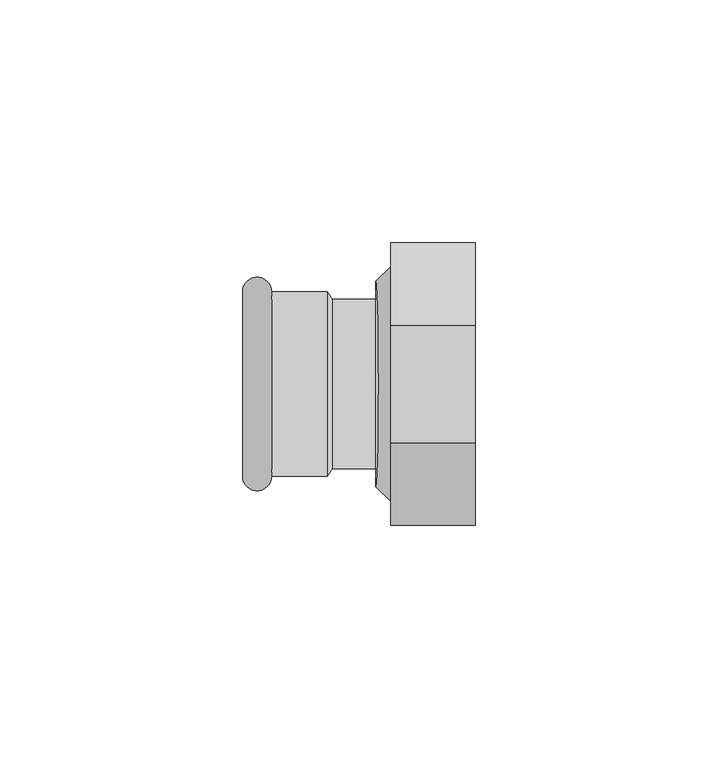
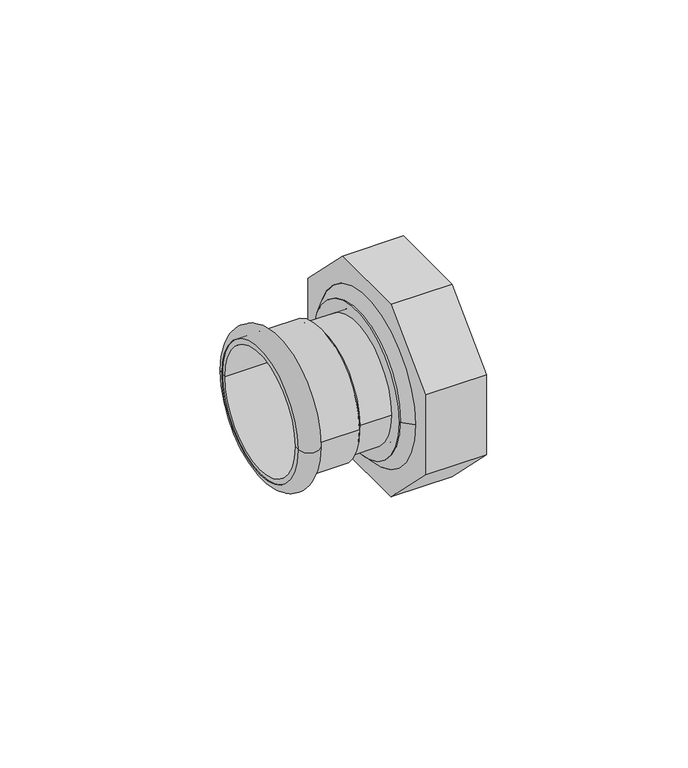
"""IFC4 building model written with IfcOpenShell, lengths in millimetres: pipe fitting geometry."""

import ifcopenshell
import ifcopenshell.guid

model = None  # the IFC model being written
_history = None  # IfcOwnerHistory: only IFC2X3 demands one
_inside = {}  # id of a spatial element -> (the spatial element, [elements in it])
_under = {}  # id of a project, library or spatial element -> (it, [spatial elements below it])
_declared = {}  # id of a project -> (the project, [libraries it declares])
_typed = {}  # id of a type object -> (the type object, [elements of that type])
_made_of = {}  # id of a material, layer set ... -> (it, [elements and type objects made of it])


def new_model(schema):
    """Start an empty IFC model of exactly this schema.

    Asked for "IFC4X3", IfcOpenShell would pick the latest addendum, in which some entities
    have other attributes; the version numbers below select the first issue.
    IFC2X3 requires an IfcOwnerHistory on every rooted entity: one is made here for all.
    """
    global model, _history
    if schema == "IFC4X3":
        model = ifcopenshell.file(schema_version=(4, 3, 0, 0))
    else:
        model = ifcopenshell.file(schema=schema)
    _inside.clear()
    _under.clear()
    _declared.clear()
    _typed.clear()
    _made_of.clear()
    _history = None
    if model.schema == "IFC2X3":
        org = make("IfcOrganization", Name="unknown")
        user = make(
            "IfcPersonAndOrganization",
            ThePerson=make("IfcPerson", FamilyName="unknown"),
            TheOrganization=org,
        )
        app = make(
            "IfcApplication",
            ApplicationDeveloper=org,
            Version="unknown",
            ApplicationFullName="unknown",
            ApplicationIdentifier="unknown",
        )
        _history = make(
            "IfcOwnerHistory",
            OwningUser=user,
            OwningApplication=app,
            ChangeAction="ADDED",
            CreationDate=0,
        )
    return model


def make(cls, **values):
    """One entity of the class cls with the attributes given. An attribute that is None is left unset."""
    return model.create_entity(
        cls, **{name: value for name, value in values.items() if value is not None}
    )


def rooted(cls, **values):
    """An entity with a GlobalId (a new one), such as an element, a storey or a relation."""
    return make(cls, GlobalId=ifcopenshell.guid.new(), OwnerHistory=_history, **values)


def si_unit(unit_type, name, prefix=None):
    """IfcSIUnit, for example si_unit("LENGTHUNIT", "METRE", prefix="MILLI")."""
    return make("IfcSIUnit", UnitType=unit_type, Prefix=prefix, Name=name)


def assignment(units):
    """IfcUnitAssignment: the units of a project."""
    return None if units is None else make("IfcUnitAssignment", Units=units)


def point(xyz):
    """IfcCartesianPoint."""
    return None if xyz is None else make("IfcCartesianPoint", Coordinates=xyz)


def direction(xyz):
    """IfcDirection."""
    return None if xyz is None else make("IfcDirection", DirectionRatios=xyz)


def frame(location, z_axis=None, x_axis=None):
    """IfcAxis2Placement3D, a coordinate frame: its origin and axes. An axis left out is left unset."""
    return make(
        "IfcAxis2Placement3D",
        Location=point(location),
        Axis=direction(z_axis),
        RefDirection=direction(x_axis),
    )


def frame_2d(location, x_axis=None):
    """IfcAxis2Placement2D, a coordinate frame in the plane: its origin and x axis."""
    return make(
        "IfcAxis2Placement2D", Location=point(location), RefDirection=direction(x_axis)
    )


def origin():
    """The frame at (0, 0, 0) with its axes left unset."""
    return frame((0.0, 0.0, 0.0))


def origin_2d():
    """The frame at (0, 0) in the plane with its x axis left unset."""
    return frame_2d((0.0, 0.0))


def place(relative_to, where):
    """IfcLocalPlacement: puts the frame where relative to a parent placement (None: the world)."""
    return make(
        "IfcLocalPlacement", PlacementRelTo=relative_to, RelativePlacement=where
    )


def context(
    kind, dimensions, precision=None, world=None, true_north=None, identifier=None
):
    """IfcGeometricRepresentationContext, for example the 3D "Model" context."""
    return make(
        "IfcGeometricRepresentationContext",
        ContextIdentifier=identifier,
        ContextType=kind,
        CoordinateSpaceDimension=dimensions,
        Precision=precision,
        WorldCoordinateSystem=world,
        TrueNorth=true_north,
    )


def project(units=None, contexts=None):
    """IfcProject with its units and contexts."""
    return rooted(
        "IfcProject",
        Name="project",
        RepresentationContexts=contexts,
        UnitsInContext=assignment(units),
    )


def spatial(cls, under=None, at=None, **own):
    """A site, building, storey or space (cls), placed at a placement, below another one or the project."""
    s = rooted(cls, ObjectPlacement=at, **own)
    if under is not None:
        _under.setdefault(under.id(), (under, []))[1].append(s)
    return s


def polyline(points):
    """IfcPolyline through the points."""
    return make("IfcPolyline", Points=[point(p) for p in points])


def circle_curve(where, radius):
    """IfcCircle in the frame where."""
    return make("IfcCircle", Position=where, Radius=radius)


def ellipse_curve(where, semi_axis1, semi_axis2):
    """IfcEllipse in the frame where."""
    return make(
        "IfcEllipse", Position=where, SemiAxis1=semi_axis1, SemiAxis2=semi_axis2
    )


def trimmed(basis, trim1, trim2, sense, master):
    """IfcTrimmedCurve: the piece of a basis curve between two trims."""
    return make(
        "IfcTrimmedCurve",
        BasisCurve=basis,
        Trim1=trim1,
        Trim2=trim2,
        SenseAgreement=sense,
        MasterRepresentation=master,
    )


def segment(curve, same_sense, transition):
    """IfcCompositeCurveSegment."""
    return make(
        "IfcCompositeCurveSegment",
        Transition=transition,
        SameSense=same_sense,
        ParentCurve=curve,
    )


def composite_curve(segments, self_intersect=None):
    """IfcCompositeCurve: segments joined end to end."""
    return make("IfcCompositeCurve", Segments=segments, SelfIntersect=self_intersect)


def outline(outer, holes=None, kind="AREA"):
    """IfcArbitraryClosedProfileDef: a profile drawn as a closed curve; with holes, ...WithVoids."""
    if holes is None:
        return make("IfcArbitraryClosedProfileDef", ProfileType=kind, OuterCurve=outer)
    return make(
        "IfcArbitraryProfileDefWithVoids",
        ProfileType=kind,
        OuterCurve=outer,
        InnerCurves=holes,
    )


def extrude(swept, where, along, depth):
    """IfcExtrudedAreaSolid: the profile swept, set in the frame where, extruded along a direction by depth."""
    return make(
        "IfcExtrudedAreaSolid",
        SweptArea=swept,
        Position=where,
        ExtrudedDirection=direction(along),
        Depth=depth,
    )


def shape(context_of_items, identifier, shape_type, items):
    """IfcShapeRepresentation: the items that make up one representation, for example the "Body"."""
    return make(
        "IfcShapeRepresentation",
        ContextOfItems=context_of_items,
        RepresentationIdentifier=identifier,
        RepresentationType=shape_type,
        Items=items,
    )


def source(mapping_origin, context_of_items, identifier, shape_type, items):
    """IfcRepresentationMap: a shape defined once, which mapped items show again and again."""
    return make(
        "IfcRepresentationMap",
        MappingOrigin=mapping_origin,
        MappedRepresentation=shape(context_of_items, identifier, shape_type, items),
    )


def transform(
    local_origin,
    x_axis=None,
    y_axis=None,
    z_axis=None,
    scale=None,
    scale2=None,
    scale3=None,
    uniform=True,
):
    """IfcCartesianTransformationOperator3D, or its non-uniform kind. x_axis, y_axis, z_axis: its Axis1, 2, 3."""
    if uniform:
        return make(
            "IfcCartesianTransformationOperator3D",
            Axis1=direction(x_axis),
            Axis2=direction(y_axis),
            LocalOrigin=point(local_origin),
            Scale=scale,
            Axis3=direction(z_axis),
        )
    return make(
        "IfcCartesianTransformationOperator3DnonUniform",
        Axis1=direction(x_axis),
        Axis2=direction(y_axis),
        LocalOrigin=point(local_origin),
        Scale=scale,
        Axis3=direction(z_axis),
        Scale2=scale2,
        Scale3=scale3,
    )


def mapped(mapping_source, mapping_target):
    """IfcMappedItem: shows the shape of a source again, moved by a transform."""
    return make(
        "IfcMappedItem", MappingSource=mapping_source, MappingTarget=mapping_target
    )


def made_of(thing, what):
    """Note that an element or type object is made of a material, layer set ...; save() writes the relation."""
    if what is not None:
        _made_of.setdefault(what.id(), (what, []))[1].append(thing)
    return thing


def element(
    cls,
    number,
    at=None,
    inside=None,
    cuts=None,
    type_object=None,
    material=None,
    context=None,
    identifier="Body",
    shape_type=None,
    held_by="IfcProductDefinitionShape",
    body=None,
    shapes=None,
    **own,
):
    """One element of the class cls, such as IfcWall. Its Tag is "e" and its number.

    at: its placement. inside: the storey or other place that contains it. cuts: it is an
    opening in that element (IfcRelVoidsElement). A single representation is given by context,
    identifier, shape_type and body (its items); several are given by shapes. held_by: the class
    of the entity that holds the representations. save() writes the other relations.
    """
    e = rooted(cls, Tag="e%d" % number, ObjectPlacement=at, **own)
    if body is not None:
        shapes = [shape(context, identifier, shape_type, body)]
    if shapes is not None:
        e.Representation = make(held_by, Representations=shapes)
    if inside is not None:
        _inside.setdefault(inside.id(), (inside, []))[1].append(e)
    if cuts is not None:
        rooted(
            "IfcRelVoidsElement", RelatingBuildingElement=cuts, RelatedOpeningElement=e
        )
    if type_object is not None:
        _typed.setdefault(type_object.id(), (type_object, []))[1].append(e)
    return made_of(e, material)


def aggregate(whole, parts):
    """IfcRelAggregates: a whole, such as a stair, and the parts it consists of."""
    return rooted("IfcRelAggregates", RelatingObject=whole, RelatedObjects=parts)


def save(model, path):
    """Write the relations noted so far, then the file.

    IfcRelAggregates (storeys below a building ...), IfcRelContainedInSpatialStructure (elements
    in a storey), IfcRelDefinesByType, IfcRelAssociatesMaterial and IfcRelDeclares: one each for
    every whole, place, type object, material and project.
    """
    for whole, parts in _under.values():
        aggregate(whole, parts)
    for where, things in _inside.values():
        rooted(
            "IfcRelContainedInSpatialStructure",
            RelatedElements=things,
            RelatingStructure=where,
        )
    for kind, things in _typed.values():
        rooted("IfcRelDefinesByType", RelatedObjects=things, RelatingType=kind)
    for what, things in _made_of.values():
        rooted("IfcRelAssociatesMaterial", RelatedObjects=things, RelatingMaterial=what)
    for by, libraries in _declared.values():
        rooted("IfcRelDeclares", RelatingContext=by, RelatedDefinitions=libraries)
    model.write(path)


def plane_surface(at):
    """IfcPlane: the flat surface through the origin of the frame at, square to its z axis."""
    return make("IfcPlane", Position=at)


def cylinder_surface(at, radius):
    """IfcCylindricalSurface: all points at the distance radius from the z axis of the frame at."""
    return make("IfcCylindricalSurface", Position=at, Radius=radius)


def revolved_surface(curve, axis_point, axis_direction):
    """IfcSurfaceOfRevolution: the curve turned about the line through axis_point along axis_direction."""
    return make(
        "IfcSurfaceOfRevolution",
        SweptCurve=make("IfcArbitraryOpenProfileDef", ProfileType="CURVE", Curve=curve),
        AxisPosition=make("IfcAxis1Placement", Location=point(axis_point), Axis=direction(axis_direction)),
    )


def advanced_brep(points, edges, surfaces, faces):
    """IfcAdvancedBrep: a solid bounded by faces that lie on surfaces and meet in shared edges.

    An edge is (start, end): straight between two places in points (the first is 0);
    or (start, end, curve); or (start, end, curve, False) where it runs against its curve.
    A face is (place in surfaces, loops), or (place, loops, False) where it looks against
    its surface's normal. A loop lists edges by number (the first is 1), with a minus sign
    where the edge is run from its end to its start. The first loop is the outer one.
    """
    corners = [point(p) for p in points]
    vertices = [make("IfcVertexPoint", VertexGeometry=c) for c in corners]
    made = []
    for start, end, *more in edges:
        made.append(
            make(
                "IfcEdgeCurve",
                EdgeStart=vertices[start],
                EdgeEnd=vertices[end],
                EdgeGeometry=more[0] if more else make("IfcPolyline", Points=[corners[start], corners[end]]),
                SameSense=more[1] if len(more) > 1 else True,
            )
        )
    hull = []
    for where, loops, *sense in faces:
        bounds = []
        for j, loop in enumerate(loops):
            ring = [make("IfcOrientedEdge", EdgeElement=made[abs(k) - 1], Orientation=k > 0) for k in loop]
            bounds.append(
                make(
                    "IfcFaceOuterBound" if j == 0 else "IfcFaceBound",
                    Bound=make("IfcEdgeLoop", EdgeList=ring),
                    Orientation=True,
                )
            )
        hull.append(make("IfcAdvancedFace", Bounds=bounds, FaceSurface=surfaces[where], SameSense=sense[0] if sense else True))
    return make("IfcAdvancedBrep", Outer=make("IfcClosedShell", CfsFaces=hull))


def pipe_fitting_df6c98cd(model_context):
    return source(origin(), model_context, "Body", "SolidModel", [
        advanced_brep(
        [(-24.0, 19.0, 0.0), (-24.0, -19.0, 0.0), (-17.9987073, -19.0, 0.0), (-17.9987073, 19.0, 0.0)],
        [
            (0, 1, circle_curve(frame((-24.0, 0.0, 0.0), z_axis=(-1.0, 0.0, 0.0), x_axis=(0.0, -1.0, 0.0)), 19.0)),
            (1, 2),
            (2, 3, circle_curve(frame((-17.9987073, 0.0, 0.0), z_axis=(1.0, 0.0, 0.0), x_axis=(0.0, -1.0, 0.0)), 19.0)),
            (3, 0),
            (1, 0, circle_curve(frame((-24.0, 0.0, 0.0), z_axis=(-1.0, 0.0, 0.0), x_axis=(0.0, -1.0, 0.0)), 19.0)),
            (3, 2, circle_curve(frame((-17.9987073, 0.0, 0.0), z_axis=(1.0, 0.0, 0.0), x_axis=(0.0, -1.0, 0.0)), 19.0)),
            (2, 1, circle_curve(frame((-20.9993536, -19.0, 0.0), z_axis=(0.0, 0.0, -1.0), x_axis=(-1.0, 0.0, 0.0)), 3.0006464)),
            (0, 3, circle_curve(frame((-20.9993536, 19.0, 0.0), z_axis=(0.0, 0.0, -1.0), x_axis=(-1.0, 0.0, 0.0)), 3.0006464)),
        ],
        [
            revolved_surface(polyline([(-17.9987073, -19.0, 0.0), (-24.0, -19.0, 0.0)]), (-6.5, 0.0, 0.0), (1.0, 0.0, 0.0)),
            revolved_surface(trimmed(ellipse_curve(frame((-20.9993536, -19.0, 0.0), z_axis=(0.0, 0.0, 1.0), x_axis=(-1.0, 0.0, 0.0)), 3.0006464, 3.0006464), [point((-24.0, -19.0, 0.0))], [point((-17.9987073, -19.0, 0.0))], True, "CARTESIAN"), (-6.5, 0.0, 0.0), (1.0, 0.0, 0.0)),
        ],
        [
            (0, [[1, 2, 3, 4]]),
            (0, [[5, -4, 6, -2]]),
            (1, [[-3, 7, -1, 8]]),
            (1, [[-6, -8, -5, -7]]),
        ],
    ),
        advanced_brep(
        [(-24.0, 17.5, 0.0), (-24.0, -17.5, 0.0), (-5.5, -17.5, 0.0), (-5.5, 17.5, 0.0), (-24.0, 19.0, 0.0), (-24.0, -19.0, 0.0), (-6.5, 19.0, 0.0), (-6.5, -19.0, 0.0)],
        [
            (0, 1, circle_curve(frame((-24.0, 0.0, 0.0), z_axis=(-1.0, 0.0, 0.0), x_axis=(0.0, -1.0, 0.0)), 17.5)),
            (1, 2),
            (2, 3, circle_curve(frame((-5.5, 0.0, 0.0), z_axis=(1.0, 0.0, 0.0), x_axis=(0.0, -1.0, 0.0)), 17.5)),
            (3, 0),
            (1, 0, circle_curve(frame((-24.0, 0.0, 0.0), z_axis=(-1.0, 0.0, 0.0), x_axis=(0.0, -1.0, 0.0)), 17.5)),
            (3, 2, circle_curve(frame((-5.5, 0.0, 0.0), z_axis=(1.0, 0.0, 0.0), x_axis=(0.0, -1.0, 0.0)), 17.5)),
            (4, 5, circle_curve(frame((-24.0, 0.0, 0.0), z_axis=(-1.0, 0.0, 0.0), x_axis=(0.0, -1.0, 0.0)), 19.0)),
            (5, 1),
            (0, 4),
            (5, 4, circle_curve(frame((-24.0, 0.0, 0.0), z_axis=(-1.0, 0.0, 0.0), x_axis=(0.0, -1.0, 0.0)), 19.0)),
            (6, 7, circle_curve(frame((-6.5, 0.0, 0.0), z_axis=(-1.0, 0.0, 0.0), x_axis=(0.0, -1.0, 0.0)), 19.0)),
            (7, 5),
            (4, 6),
            (7, 6, circle_curve(frame((-6.5, 0.0, 0.0), z_axis=(-1.0, 0.0, 0.0), x_axis=(0.0, -1.0, 0.0)), 19.0)),
            (2, 7),
            (6, 3),
        ],
        [
            revolved_surface(polyline([(-5.5, -17.5, 0.0), (-24.0, -17.5, 0.0)]), (-6.5, 0.0, 0.0), (1.0, 0.0, 0.0)),
            plane_surface(frame((-24.0, 0.0, 0.0), z_axis=(-1.0, 0.0, 0.0), x_axis=(0.0, -1.0, 0.0))),
            cylinder_surface(frame((-6.5, 0.0, 0.0), z_axis=(1.0, 0.0, 0.0), x_axis=(0.0, -1.0, 0.0)), 19.0),
            revolved_surface(polyline([(-6.5, -19.0, 0.0), (-5.5, -17.5, 0.0)]), (-6.5, 0.0, 0.0), (1.0, 0.0, 0.0)),
        ],
        [
            (0, [[1, 2, 3, 4]]),
            (0, [[5, -4, 6, -2]]),
            (1, [[7, 8, -1, 9]]),
            (1, [[10, -9, -5, -8]]),
            (2, [[11, 12, -7, 13]]),
            (2, [[14, -13, -10, -12]]),
            (3, [[-3, 15, -11, 16]]),
            (3, [[-6, -16, -14, -15]]),
        ],
    ),
        extrude(outline(composite_curve([segment(trimmed(circle_curve(origin_2d(), 21.15), [point((-21.15, 0.0))], [point((21.15, 0.0))], False, "CARTESIAN"), True, "CONTINUOUS"), segment(trimmed(circle_curve(origin_2d(), 21.15), [point((21.15, 0.0))], [point((-21.15, 0.0))], False, "CARTESIAN"), True, "CONTINUOUS")], self_intersect=False), holes=[composite_curve([segment(trimmed(circle_curve(origin_2d(), 17.5), [point((-17.5, 0.0))], [point((17.5, 0.0))], True, "CARTESIAN"), True, "CONTINUOUS"), segment(trimmed(circle_curve(origin_2d(), 17.5), [point((17.5, 0.0))], [point((-17.5, 0.0))], True, "CARTESIAN"), True, "CONTINUOUS")], self_intersect=False)]), frame((3.5, 0.0, 0.0), z_axis=(1.0, 0.0, 0.0), x_axis=(0.0, 1.0, 0.0)), (0.0, 0.0, 1.0), 3.0),
        advanced_brep(
        [(24.0, 29.1516288, 12.075), (24.0, 12.075, 29.1516288), (24.0, -12.075, 29.1516288), (24.0, -29.1516288, 12.075), (24.0, -29.1516288, -12.075), (24.0, -12.075, -29.1516288), (24.0, 12.075, -29.1516288), (24.0, 29.1516288, -12.075), (24.0, -24.15, 0.0), (24.0, 24.15, 0.0), (6.5, 29.1516288, 12.075), (6.5, 29.1516288, -12.075), (6.5, 12.075, -29.1516288), (6.5, -12.075, -29.1516288), (6.5, -29.1516288, -12.075), (6.5, -29.1516288, 12.075), (6.5, -12.075, 29.1516288), (6.5, 12.075, 29.1516288), (6.5, -24.1788231, 0.0), (6.5, 24.1788231, 0.0), (6.5, -24.15, 0.0), (6.5, 24.15, 0.0), (6.5, -21.1788231, 0.0), (6.5, 21.1788231, 0.0), (3.5, -21.1788231, 0.0), (3.5, 21.1788231, 0.0)],
        [
            (0, 1),
            (1, 2),
            (2, 3),
            (3, 4),
            (4, 5),
            (5, 6),
            (6, 7),
            (7, 0),
            (8, 9, circle_curve(frame((24.0, 0.0, 0.0), z_axis=(-1.0, 0.0, 0.0), x_axis=(0.0, 1.0, 0.0)), 24.15)),
            (9, 8, circle_curve(frame((24.0, 0.0, 0.0), z_axis=(-1.0, 0.0, 0.0), x_axis=(0.0, 1.0, 0.0)), 24.15)),
            (10, 11),
            (11, 12),
            (12, 13),
            (13, 14),
            (14, 15),
            (15, 16),
            (16, 17),
            (17, 10),
            (18, 19, circle_curve(frame((6.5, 0.0, 0.0), z_axis=(1.0, 0.0, 0.0), x_axis=(0.0, 1.0, 0.0)), 24.1788231)),
            (19, 18, circle_curve(frame((6.5, 0.0, 0.0), z_axis=(1.0, 0.0, 0.0), x_axis=(0.0, -1.0, 0.0)), 24.1788231)),
            (8, 20),
            (20, 21, circle_curve(frame((6.5, 0.0, 0.0), z_axis=(-1.0, 0.0, 0.0), x_axis=(0.0, 1.0, 0.0)), 24.15)),
            (21, 9),
            (21, 20, circle_curve(frame((6.5, 0.0, 0.0), z_axis=(-1.0, 0.0, 0.0), x_axis=(0.0, 1.0, 0.0)), 24.15)),
            (0, 10),
            (17, 1),
            (16, 2),
            (15, 3),
            (14, 4),
            (13, 5),
            (12, 6),
            (11, 7),
            (22, 23, circle_curve(frame((6.5, 0.0, 0.0), z_axis=(-1.0, 0.0, 0.0), x_axis=(0.0, -1.0, 0.0)), 21.1788231)),
            (23, 22, circle_curve(frame((6.5, 0.0, 0.0), z_axis=(-1.0, 0.0, 0.0), x_axis=(0.0, 1.0, 0.0)), 21.1788231)),
            (24, 25, circle_curve(frame((3.5, 0.0, 0.0), z_axis=(1.0, 0.0, 0.0), x_axis=(0.0, 1.0, 0.0)), 21.1788231)),
            (25, 19),
            (18, 24),
            (23, 25),
            (24, 22),
            (25, 24, circle_curve(frame((3.5, 0.0, 0.0), z_axis=(1.0, 0.0, 0.0), x_axis=(0.0, -1.0, 0.0)), 21.1788231)),
        ],
        [
            plane_surface(frame((24.0, 24.15, 0.0), z_axis=(1.0, 0.0, 0.0), x_axis=(0.0, 0.0, -1.0))),
            plane_surface(frame((6.5, 24.15, 0.0), z_axis=(-1.0, 0.0, 0.0), x_axis=(0.0, 0.0, 1.0))),
            revolved_surface(polyline([(6.5, 24.15, 0.0), (24.0, 24.15, 0.0)]), (6.5, 0.0, 0.0), (-1.0, 0.0, 0.0)),
            plane_surface(frame((24.0, 29.1516288, 12.075), z_axis=(0.0, 0.7071067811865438, 0.7071067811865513), x_axis=(-1.0, 0.0, 0.0))),
            plane_surface(frame((24.0, 12.075, 29.1516288), z_axis=(0.0, 0.0, 1.0), x_axis=(-1.0, 0.0, 0.0))),
            plane_surface(frame((24.0, -12.075, 29.1516288), z_axis=(0.0, -0.7071067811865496, 0.7071067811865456), x_axis=(-1.0, 0.0, 0.0))),
            plane_surface(frame((24.0, -29.1516288, 12.075), z_axis=(0.0, -1.0, 0.0), x_axis=(-1.0, 0.0, 0.0))),
            plane_surface(frame((24.0, -29.1516288, -12.075), z_axis=(0.0, -0.7071067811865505, -0.7071067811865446), x_axis=(-1.0, 0.0, 0.0))),
            plane_surface(frame((24.0, -12.075, -29.1516288), z_axis=(0.0, 0.0, -1.0), x_axis=(-1.0, 0.0, 0.0))),
            plane_surface(frame((24.0, 12.075, -29.1516288), z_axis=(0.0, 0.7071067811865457, -0.7071067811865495), x_axis=(-1.0, 0.0, 0.0))),
            plane_surface(frame((24.0, 29.1516288, -12.075), z_axis=(0.0, 1.0, 0.0), x_axis=(-1.0, 0.0, 0.0))),
            plane_surface(frame((6.5, 0.0, 0.0), z_axis=(1.0, 0.0, 0.0), x_axis=(0.0, -1.0, 0.0))),
            revolved_surface(polyline([(6.5, 24.1788231, 0.0), (3.5, 21.1788231, 0.0)]), (6.5, 0.0, 0.0), (-1.0, 0.0, 0.0)),
            revolved_surface(polyline([(3.5, 21.1788231, 0.0), (6.5, 21.1788231, 0.0)]), (6.5, 0.0, 0.0), (-1.0, 0.0, 0.0)),
            revolved_surface(polyline([(6.5, -24.1788231, 0.0), (3.5, -21.1788231, 0.0)]), (6.5, 0.0, 0.0), (-1.0, 0.0, 0.0)),
            revolved_surface(polyline([(3.5, -21.1788231, 0.0), (6.5, -21.1788231, 0.0)]), (6.5, 0.0, 0.0), (-1.0, 0.0, 0.0)),
        ],
        [
            (0, [[1, 2, 3, 4, 5, 6, 7, 8], [9, 10]]),
            (1, [[11, 12, 13, 14, 15, 16, 17, 18], [19, 20]]),
            (2, [[-9, 21, 22, 23]]),
            (2, [[-10, -23, 24, -21]]),
            (3, [[-1, 25, -18, 26]]),
            (4, [[-2, -26, -17, 27]]),
            (5, [[-3, -27, -16, 28]]),
            (6, [[-4, -28, -15, 29]]),
            (7, [[-5, -29, -14, 30]]),
            (8, [[-6, -30, -13, 31]]),
            (9, [[-7, -31, -12, 32]]),
            (10, [[-8, -32, -11, -25]]),
            (11, [[-22, -24], [33, 34]]),
            (12, [[35, 36, -19, 37]]),
            (13, [[-34, 38, -35, 39]]),
            (14, [[-36, 40, -37, -20]]),
            (15, [[-33, -39, -40, -38]]),
        ],
    ),
        extrude(outline(composite_curve([segment(trimmed(circle_curve(origin_2d(), 17.5), [point((-17.5, 0.0))], [point((17.5, 0.0))], False, "CARTESIAN"), True, "CONTINUOUS"), segment(trimmed(circle_curve(origin_2d(), 17.5), [point((17.5, 0.0))], [point((-17.5, 0.0))], False, "CARTESIAN"), True, "CONTINUOUS")], self_intersect=False)), frame((-6.5, 0.0, 0.0), z_axis=(1.0, 0.0, 0.0), x_axis=(0.0, 1.0, 0.0)), (0.0, 0.0, 1.0), 13.0),
    ])


if __name__ == "__main__":
    model = new_model("IFC4")
    model_context = context("Model", 3, world=origin())
    ifc_project = project(units=[si_unit("LENGTHUNIT", "METRE", prefix="MILLI")], contexts=[model_context])
    site = spatial("IfcSite", under=ifc_project)
    building = spatial("IfcBuilding", under=site)
    placement = place(None, origin())
    pipe_fitting_shape = pipe_fitting_df6c98cd(model_context)
    element("IfcPipeFitting", 1, ObjectType="NLRS_50_PIF_UN_Geberit Mapress Therm overgang met wartel_PRO_3208096 : DN12-80-G3.1/2\" / d15-89-G3.1/2\" - OD", at=placement, inside=building, context=model_context, shape_type="MappedRepresentation", body=[
        mapped(pipe_fitting_shape, transform((0.0, 0.0, 0.0), x_axis=(1.0, 0.0, 0.0), y_axis=(0.0, 1.0, 0.0), z_axis=(0.0, 0.0, 1.0))),
    ])
    save(model, "model.ifc")
